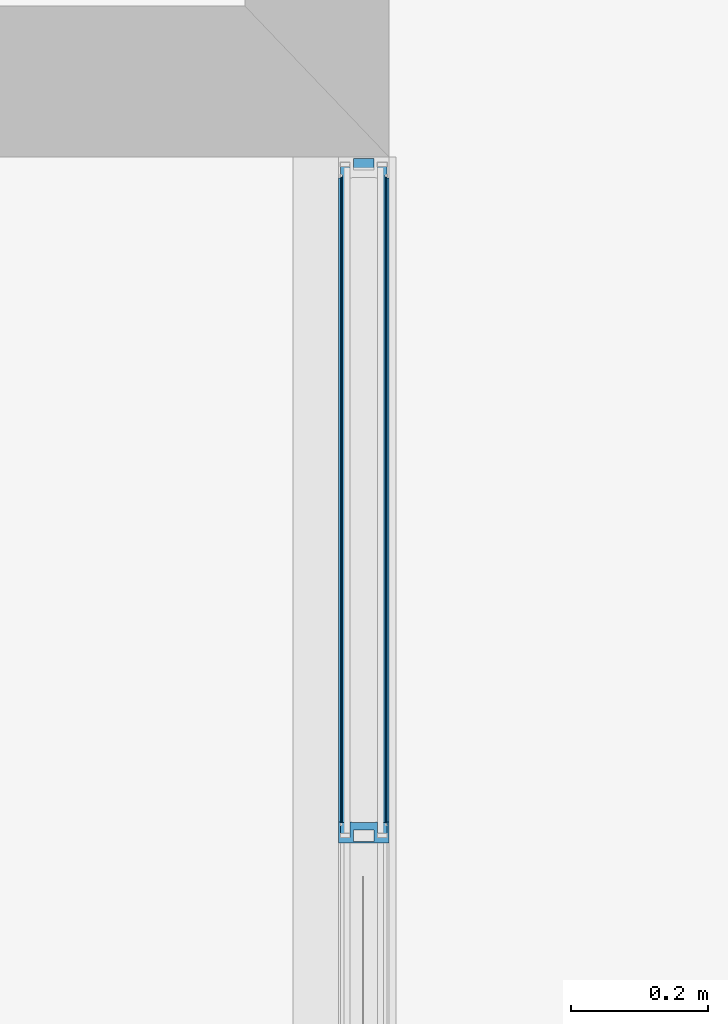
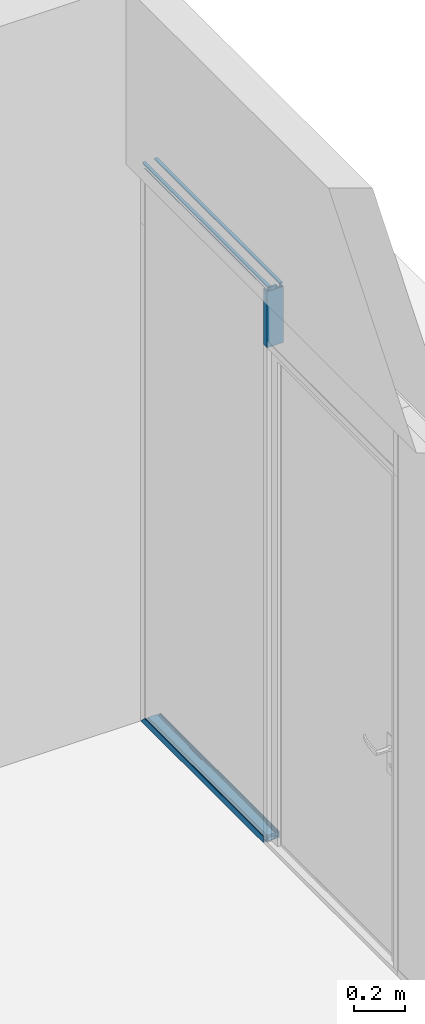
# One storey, part 48 of 65: 4 building element parts, 4 elements without a shape of their own.
"""IFC2X3 building model written with IfcOpenShell, lengths in millimetres."""

from ifc_helpers import new_model, entity, si_unit, converted_unit, derived_unit, money_unit, direction, frame, origin_with_axes, place, context, subcontext, project, spatial, faceted_brep, material, type_object, element, aggregate, save


model = new_model("IFC2X3")

# Units and contexts
model_context = context("Model", 3, precision=0.01, world=origin_with_axes(), true_north=direction((0.0, 1.0)))
body_context = subcontext(model_context, "Body", "Model", "MODEL_VIEW")
ifc_project = project(units=[si_unit("LENGTHUNIT", "METRE", prefix="MILLI"), si_unit("AREAUNIT", "SQUARE_METRE"), si_unit("VOLUMEUNIT", "CUBIC_METRE"), converted_unit("PLANEANGLEUNIT", "DEGREE", entity("IfcPlaneAngleMeasure", 0.0174532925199), si_unit("PLANEANGLEUNIT", "RADIAN"), dimensions=[0, 0, 0, 0, 0, 0, 0]), si_unit("SOLIDANGLEUNIT", "STERADIAN"), money_unit("EUR"), converted_unit("TIMEUNIT", "Year", entity("IfcTimeMeasure", 31556926.0), si_unit("TIMEUNIT", "SECOND"), dimensions=[0, 0, 1, 0, 0, 0, 0]), si_unit("MASSUNIT", "GRAM", prefix="KILO"), si_unit("THERMODYNAMICTEMPERATUREUNIT", "DEGREE_CELSIUS"), si_unit("LUMINOUSINTENSITYUNIT", "LUMEN"), si_unit("ENERGYUNIT", "JOULE", prefix="MEGA"), derived_unit("THERMALCONDUCTANCEUNIT", [(si_unit("POWERUNIT", "WATT"), 1), (si_unit("LENGTHUNIT", "METRE"), -1), (si_unit("THERMODYNAMICTEMPERATUREUNIT", "KELVIN"), -1)]), derived_unit("SPECIFICHEATCAPACITYUNIT", [(si_unit("ENERGYUNIT", "JOULE"), 1), (si_unit("MASSUNIT", "GRAM", prefix="KILO"), -1), (si_unit("THERMODYNAMICTEMPERATUREUNIT", "KELVIN"), -1)]), derived_unit("MASSDENSITYUNIT", [(si_unit("MASSUNIT", "GRAM", prefix="KILO"), 1), (si_unit("VOLUMEUNIT", "CUBIC_METRE"), -1)])], contexts=[model_context])

# Site, building, storey
site_placement = place(None, origin_with_axes())
site = spatial("IfcSite", under=ifc_project, at=site_placement, Name="Puškini 31, Narva", CompositionType="ELEMENT")
building_placement = place(site_placement, origin_with_axes())
building = spatial("IfcBuilding", under=site, at=building_placement, Name="Narva Riigigümnaasium", CompositionType="ELEMENT")
storey_placement = place(building_placement, frame((0.0, 0.0, -1320.0), z_axis=(0.0, 0.0, 1.0), x_axis=(1.0, 0.0, 0.0)))
storey = spatial("IfcBuildingStorey", under=building, at=storey_placement, Name="1.korrus -1.32", CompositionType="ELEMENT", Elevation=-1320.0)

# Curtain wall, members, building element parts
curtain_wall_type = type_object("IfcCurtainWallType", Name="Curtain Wall Type", PredefinedType="NOTDEFINED")
curtain_wall_placement = place(storey_placement, frame((30362.9999948, 171898.750025, 0.0), z_axis=(0.0, 0.0, 1.0), x_axis=(1.0, 0.0, 0.0)))
curtain_wall = element("IfcCurtainWall", 1, at=curtain_wall_placement, inside=storey, type_object=curtain_wall_type, Name="G-SKLF-06")
member_type_1 = type_object("IfcMemberType", Name="30 x 27", PredefinedType="MULLION")
member_1_placement = place(curtain_wall_placement, frame((0.0, 2493.75, 2400.0), z_axis=(0.0, 0.0, 1.0), x_axis=(0.0, -1.0, 0.0)))
member_1 = element("IfcMember", 2, at=member_1_placement, type_object=member_type_1, Name="G-SKLF-06-raam", ObjectType="MULLION")
ifc_material_1 = material(Name="Teras RAL7012")
building_element_part_1_placement = place(member_1_placement, origin_with_axes())
building_element_part_1 = element("IfcBuildingElementPart", 3, at=building_element_part_1_placement, material=ifc_material_1, Name="Teras RAL7012", context=body_context, shape_type="Brep", body=[
    faceted_brep([(-29.6000001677, 17.0000000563, 0.0), (-29.6000001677, -17.0000000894, 0.0), (-29.6000001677, -17.0000000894, 269.999980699), (-29.6000001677, 17.0000000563, 269.999980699), (3.28335792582e-07, 17.0000000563, 0.0), (3.28335792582e-07, -17.0000000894, 0.0), (-1.99999958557, -15.0000001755, 0.0), (-1.99999958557, 15.0000001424, 0.0), (-18.8000001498, 15.0000001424, 0.0), (-18.8000001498, -15.0000001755, 0.0), (3.28335792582e-07, -17.0000000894, 269.999980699), (3.28335792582e-07, 17.0000000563, 269.999980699), (-1.99999958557, -15.0000001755, 269.999980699), (-18.8000001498, -15.0000001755, 269.999980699), (-18.8000001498, 15.0000001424, 269.999980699), (-1.99999958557, 15.0000001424, 269.999980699)], [[[0, 1, 2, 3]], [[0, 4, 5, 1], [6, 7, 8, 9]], [[1, 5, 10, 2]], [[3, 2, 10, 11], [12, 13, 14, 15]], [[4, 0, 3, 11]], [[5, 4, 11, 10]], [[7, 6, 12, 15]], [[8, 7, 15, 14]], [[9, 8, 14, 13]], [[6, 9, 13, 12]]]),
    faceted_brep([(0.0, 17.0, 0.0), (0.0, 37.0, 0.0), (0.0, 37.0, 269.999980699), (0.0, 17.0, 269.999980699), (-29.6000001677, 17.0000000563, 0.0), (-30.0000193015, 17.0, 0.0), (-30.0000193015, 20.0, 0.0), (-13.8499999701, 20.000000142, 0.0), (-7.49999999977, 20.0, 0.0), (-7.49999999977, 34.0161444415, 0.0), (-13.8499999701, 34.0161444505, 0.0), (-24.987414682, 34.0161444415, 0.0), (-28.5126239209, 34.0161444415, 0.0), (-30.0000193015, 34.0161444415, 0.0), (-30.0000193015, 37.0, 0.0), (-30.0000193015, 37.0, 269.999980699), (-30.0000193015, 34.0161444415, 269.999980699), (-28.5126239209, 34.0161444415, 269.999980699), (-24.987414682, 34.0161444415, 269.999980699), (-13.8499999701, 34.0161444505, 269.999980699), (-7.49999999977, 34.0161444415, 269.999980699), (-7.49999999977, 20.0, 269.999980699), (-13.8499999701, 20.000000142, 269.999980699), (-30.0000193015, 20.0, 269.999980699), (-30.0000193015, 17.0, 269.999980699), (-29.6000001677, 17.0000000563, 269.999980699)], [[[0, 1, 2, 3]], [[0, 4, 5, 6, 7, 8, 9, 10, 11, 12, 13, 14, 1]], [[1, 14, 15, 2]], [[3, 2, 15, 16, 17, 18, 19, 20, 21, 22, 23, 24, 25]], [[4, 0, 3, 25]], [[5, 4, 25, 24]], [[6, 5, 24, 23]], [[7, 6, 23, 22]], [[8, 7, 22, 21]], [[9, 8, 21, 20]], [[10, 9, 20, 19]], [[11, 10, 19, 18]], [[12, 11, 18, 17]], [[13, 12, 17, 16]], [[14, 13, 16, 15]]]),
    faceted_brep([(0.0, -17.0, 0.0), (-29.6000001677, -17.0000000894, 0.0), (-29.6000001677, -17.0000000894, 269.999980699), (0.0, -17.0, 269.999980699), (0.0, -37.0, 0.0), (-30.0000193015, -37.0, 0.0), (-30.0000193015, -34.0161444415, 0.0), (-28.5126239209, -34.0161444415, 0.0), (-24.987414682, -34.0161444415, 0.0), (-13.8499999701, -34.0161445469, 0.0), (-7.49999999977, -34.0161444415, 0.0), (-7.49999999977, -20.0, 0.0), (-13.8499999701, -19.9999997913, 0.0), (-30.0000193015, -20.0, 0.0), (-30.0000193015, -17.0, 0.0), (-30.0000193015, -17.0, 269.999980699), (-30.0000193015, -20.0, 269.999980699), (-13.8499999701, -19.9999997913, 269.999980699), (-7.49999999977, -20.0, 269.999980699), (-7.49999999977, -34.0161444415, 269.999980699), (-13.8499999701, -34.0161445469, 269.999980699), (-24.987414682, -34.0161444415, 269.999980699), (-28.5126239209, -34.0161444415, 269.999980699), (-30.0000193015, -34.0161444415, 269.999980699), (-30.0000193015, -37.0, 269.999980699), (0.0, -37.0, 269.999980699)], [[[0, 1, 2, 3]], [[0, 4, 5, 6, 7, 8, 9, 10, 11, 12, 13, 14, 1]], [[1, 14, 15, 2]], [[3, 2, 15, 16, 17, 18, 19, 20, 21, 22, 23, 24, 25]], [[4, 0, 3, 25]], [[5, 4, 25, 24]], [[6, 5, 24, 23]], [[7, 6, 23, 22]], [[8, 7, 22, 21]], [[9, 8, 21, 20]], [[10, 9, 20, 19]], [[11, 10, 19, 18]], [[12, 11, 18, 17]], [[13, 12, 17, 16]], [[14, 13, 16, 15]]]),
])
aggregate(member_1, [building_element_part_1])
member_type_2 = type_object("IfcMemberType", Name="30 x 37", PredefinedType="MULLION")
member_2_placement = place(curtain_wall_placement, frame((0.0, 2493.75, 2700.0), z_axis=(0.0, 1.0, 0.0), x_axis=(0.0, 0.0, 1.0)))
member_2 = element("IfcMember", 4, at=member_2_placement, type_object=member_type_2, Name="G-SKLF-06-raam", ObjectType="MULLION")
ifc_material_2 = material(Name="Klaasvill")
building_element_part_2_placement = place(member_2_placement, origin_with_axes())
building_element_part_2 = element("IfcBuildingElementPart", 5, at=building_element_part_2_placement, material=ifc_material_2, Name="Klaasvill", context=body_context, shape_type="Brep", body=[
    faceted_brep([(-7.49999990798, 20.000000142, 0.0), (-7.49999990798, 20.000000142, 990.000090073), (-13.8499999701, 20.000000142, 983.65009001), (-13.8499999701, 20.000000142, 0.0), (-7.49999990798, 34.0161444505, 0.0), (-7.49999990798, 34.0161444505, 990.000090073), (-13.8499999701, 34.0161444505, 983.65009001), (-13.8499999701, 34.0161444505, 0.0)], [[[0, 1, 2, 3]], [[4, 5, 1, 0]], [[1, 5, 6, 2]], [[3, 2, 6, 7]], [[0, 3, 7, 4]], [[7, 6, 5, 4]]]),
    faceted_brep([(-24.987414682, 34.0161444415, 0.0), (-24.987414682, 34.0161444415, 972.512675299), (-25.004489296, 32.0307503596, 972.495600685), (-25.004489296, 32.0307503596, 0.0), (-28.5126239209, 34.0161444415, 0.0), (-28.5126239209, 34.0161444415, 968.98746606), (-28.7655837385, 33.0385325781, 968.734506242), (-28.4955493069, 32.0307503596, 969.004540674), (-27.75780152, 31.2930025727, 969.742288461), (-26.7500193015, 31.0229681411, 970.750070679), (-25.742237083, 31.2930025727, 971.757852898), (-25.742237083, 31.2930025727, 0.0), (-26.7500193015, 31.0229681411, 0.0), (-27.75780152, 31.2930025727, 0.0), (-28.4955493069, 32.0307503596, 0.0), (-28.7655837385, 33.0385325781, 0.0)], [[[0, 1, 2, 3]], [[4, 5, 1, 0]], [[1, 5, 6, 7, 8, 9, 10, 2]], [[3, 2, 10, 11]], [[0, 3, 11, 12, 13, 14, 15, 4]], [[15, 6, 5, 4]], [[14, 7, 6, 15]], [[13, 8, 7, 14]], [[12, 9, 8, 13]], [[11, 10, 9, 12]]]),
    faceted_brep([(-7.49999990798, -19.9999997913, 0.0), (-7.49999990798, -19.9999997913, 990.000090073), (-7.49999990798, -34.0161445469, 990.000090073), (-7.49999990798, -34.0161445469, 0.0), (-13.8499999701, -19.9999997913, 0.0), (-13.8499999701, -19.9999997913, 983.65009001), (-13.8499999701, -34.0161445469, 983.65009001), (-13.8499999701, -34.0161445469, 0.0)], [[[0, 1, 2, 3]], [[4, 5, 1, 0]], [[1, 5, 6, 2]], [[3, 2, 6, 7]], [[0, 3, 7, 4]], [[7, 6, 5, 4]]]),
    faceted_brep([(-25.004489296, -32.0307503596, 0.0), (-25.004489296, -32.0307503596, 972.495600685), (-24.987414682, -34.0161444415, 972.512675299), (-24.987414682, -34.0161444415, 0.0), (-25.742237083, -31.2930025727, 0.0), (-25.742237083, -31.2930025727, 971.757852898), (-26.7500193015, -31.0229681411, 970.750070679), (-27.75780152, -31.2930025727, 969.742288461), (-28.4955493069, -32.0307503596, 969.004540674), (-28.7655837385, -33.0385325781, 968.734506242), (-28.5126239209, -34.0161444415, 968.98746606), (-28.5126239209, -34.0161444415, 0.0), (-28.7655837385, -33.0385325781, 0.0), (-28.4955493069, -32.0307503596, 0.0), (-27.75780152, -31.2930025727, 0.0), (-26.7500193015, -31.0229681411, 0.0)], [[[0, 1, 2, 3]], [[4, 5, 1, 0]], [[1, 5, 6, 7, 8, 9, 10, 2]], [[3, 2, 10, 11]], [[0, 3, 11, 12, 13, 14, 15, 4]], [[15, 6, 5, 4]], [[14, 7, 6, 15]], [[13, 8, 7, 14]], [[12, 9, 8, 13]], [[11, 10, 9, 12]]]),
])
aggregate(member_2, [building_element_part_2])
member_3_placement = place(curtain_wall_placement, frame((0.0, 2523.25008998, 0.0), z_axis=(0.0, 1.0, 0.0), x_axis=(0.0, 0.0, 1.0)))
member_3 = element("IfcMember", 6, at=member_3_placement, type_object=member_type_2, Name="G-SKLF-06-raam", ObjectType="MULLION")
aggregate(curtain_wall, [member_1, member_2, member_3])
building_element_part_3_placement = place(member_3_placement, origin_with_axes())
building_element_part_3 = element("IfcBuildingElementPart", 7, at=building_element_part_3_placement, material=ifc_material_2, Name="Klaasvill", context=body_context, shape_type="Brep", body=[
    faceted_brep([(7.49999990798, 20.000000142, 0.0), (13.8499999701, 20.000000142, 0.0), (13.8499999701, 20.000000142, 954.15000003), (7.49999990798, 20.000000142, 960.500000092), (7.49999990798, 34.0161444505, 0.0), (13.8499999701, 34.0161444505, 0.0), (13.8499999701, 34.0161444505, 954.15000003), (7.49999990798, 34.0161444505, 960.500000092)], [[[0, 1, 2, 3]], [[0, 4, 5, 1]], [[1, 5, 6, 2]], [[3, 2, 6, 7]], [[4, 0, 3, 7]], [[5, 4, 7, 6]]]),
    faceted_brep([(24.987414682, 34.0161444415, 0.0), (25.004489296, 32.0307503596, 0.0), (25.004489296, 32.0307503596, 942.995510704), (24.987414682, 34.0161444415, 943.012585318), (28.5126239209, 34.0161444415, 0.0), (28.7655837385, 33.0385325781, 0.0), (28.4955493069, 32.0307503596, 0.0), (27.75780152, 31.2930025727, 0.0), (26.7500193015, 31.0229681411, 0.0), (25.742237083, 31.2930025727, 0.0), (25.742237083, 31.2930025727, 942.257762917), (26.7500193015, 31.0229681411, 941.249980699), (27.75780152, 31.2930025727, 940.24219848), (28.4955493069, 32.0307503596, 939.504450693), (28.7655837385, 33.0385325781, 939.234416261), (28.5126239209, 34.0161444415, 939.487376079)], [[[0, 1, 2, 3]], [[0, 4, 5, 6, 7, 8, 9, 1]], [[1, 9, 10, 2]], [[3, 2, 10, 11, 12, 13, 14, 15]], [[4, 0, 3, 15]], [[5, 4, 15, 14]], [[6, 5, 14, 13]], [[7, 6, 13, 12]], [[8, 7, 12, 11]], [[9, 8, 11, 10]]]),
    faceted_brep([(7.49999990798, -19.9999997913, 0.0), (7.49999990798, -34.0161445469, 0.0), (7.49999990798, -34.0161445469, 960.500000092), (7.49999990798, -19.9999997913, 960.500000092), (13.8499999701, -19.9999997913, 0.0), (13.8499999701, -34.0161445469, 0.0), (13.8499999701, -34.0161445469, 954.15000003), (13.8499999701, -19.9999997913, 954.15000003)], [[[0, 1, 2, 3]], [[0, 4, 5, 1]], [[1, 5, 6, 2]], [[3, 2, 6, 7]], [[4, 0, 3, 7]], [[5, 4, 7, 6]]]),
    faceted_brep([(25.004489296, -32.0307503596, 0.0), (24.987414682, -34.0161444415, 0.0), (24.987414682, -34.0161444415, 943.012585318), (25.004489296, -32.0307503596, 942.995510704), (25.742237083, -31.2930025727, 0.0), (26.7500193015, -31.0229681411, 0.0), (27.75780152, -31.2930025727, 0.0), (28.4955493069, -32.0307503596, 0.0), (28.7655837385, -33.0385325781, 0.0), (28.5126239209, -34.0161444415, 0.0), (28.5126239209, -34.0161444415, 939.487376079), (28.7655837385, -33.0385325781, 939.234416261), (28.4955493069, -32.0307503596, 939.504450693), (27.75780152, -31.2930025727, 940.24219848), (26.7500193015, -31.0229681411, 941.249980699), (25.742237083, -31.2930025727, 942.257762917)], [[[0, 1, 2, 3]], [[0, 4, 5, 6, 7, 8, 9, 1]], [[1, 9, 10, 2]], [[3, 2, 10, 11, 12, 13, 14, 15]], [[4, 0, 3, 15]], [[5, 4, 15, 14]], [[6, 5, 14, 13]], [[7, 6, 13, 12]], [[8, 7, 12, 11]], [[9, 8, 11, 10]]]),
])
building_element_part_4_placement = place(member_3_placement, origin_with_axes())
building_element_part_4 = element("IfcBuildingElementPart", 8, at=building_element_part_4_placement, material=ifc_material_1, Name="Teras RAL7012", context=body_context, shape_type="Brep", body=[
    faceted_brep([(0.0, -17.0000000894, 0.0), (29.5999996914, -17.0000000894, 0.0), (29.5999996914, -17.0000000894, 938.400000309), (0.0, -17.0000000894, 968.0), (0.0, 17.0000000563, 0.0), (29.5999996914, 17.0000000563, 0.0), (1.9999999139, 15.0000001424, 0.0), (1.9999999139, -15.0000001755, 0.0), (18.7999996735, -15.0000001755, 0.0), (18.7999996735, 15.0000001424, 0.0), (29.5999996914, 17.0000000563, 938.400000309), (0.0, 17.0000000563, 968.0), (1.9999999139, 15.0000001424, 966.000000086), (18.7999996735, 15.0000001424, 949.200000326), (18.7999996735, -15.0000001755, 949.200000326), (1.9999999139, -15.0000001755, 966.000000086)], [[[0, 1, 2, 3]], [[0, 4, 5, 1], [6, 7, 8, 9]], [[1, 5, 10, 2]], [[3, 2, 10, 11], [12, 13, 14, 15]], [[4, 0, 3, 11]], [[5, 4, 11, 10]], [[7, 6, 12, 15]], [[8, 7, 15, 14]], [[9, 8, 14, 13]], [[6, 9, 13, 12]]]),
    faceted_brep([(0.0, 17.0, 0.0), (29.5999996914, 17.0000000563, 0.0), (29.5999996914, 17.0000000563, 938.400000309), (0.0, 17.0, 968.0), (0.0, 37.0, 0.0), (30.0000193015, 37.0, 0.0), (30.0000193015, 34.0161444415, 0.0), (28.5126239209, 34.0161444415, 0.0), (24.987414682, 34.0161444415, 0.0), (13.8499999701, 34.0161444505, 0.0), (7.49999999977, 34.0161444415, 0.0), (7.49999999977, 20.0, 0.0), (13.8499999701, 20.000000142, 0.0), (30.0000193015, 20.0, 0.0), (30.0000193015, 17.0, 0.0), (30.0000193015, 17.0, 937.999980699), (30.0000193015, 20.0, 937.999980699), (13.8499999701, 20.000000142, 954.15000003), (7.49999999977, 20.0, 960.5), (7.49999999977, 34.0161444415, 960.5), (13.8499999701, 34.0161444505, 954.15000003), (24.987414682, 34.0161444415, 943.012585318), (28.5126239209, 34.0161444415, 939.487376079), (30.0000193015, 34.0161444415, 937.999980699), (30.0000193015, 37.0, 937.999980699), (0.0, 37.0, 968.0)], [[[0, 1, 2, 3]], [[0, 4, 5, 6, 7, 8, 9, 10, 11, 12, 13, 14, 1]], [[1, 14, 15, 2]], [[3, 2, 15, 16, 17, 18, 19, 20, 21, 22, 23, 24, 25]], [[4, 0, 3, 25]], [[5, 4, 25, 24]], [[6, 5, 24, 23]], [[7, 6, 23, 22]], [[8, 7, 22, 21]], [[9, 8, 21, 20]], [[10, 9, 20, 19]], [[11, 10, 19, 18]], [[12, 11, 18, 17]], [[13, 12, 17, 16]], [[14, 13, 16, 15]]]),
    faceted_brep([(0.0, -17.0, 0.0), (0.0, -37.0, 0.0), (0.0, -37.0, 968.0), (0.0, -17.0, 968.0), (29.5999996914, -17.0000000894, 0.0), (30.0000193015, -17.0, 0.0), (30.0000193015, -20.0, 0.0), (13.8499999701, -19.9999997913, 0.0), (7.49999999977, -20.0, 0.0), (7.49999999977, -34.0161444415, 0.0), (13.8499999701, -34.0161445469, 0.0), (24.987414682, -34.0161444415, 0.0), (28.5126239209, -34.0161444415, 0.0), (30.0000193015, -34.0161444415, 0.0), (30.0000193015, -37.0, 0.0), (30.0000193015, -37.0, 937.999980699), (30.0000193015, -34.0161444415, 937.999980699), (28.5126239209, -34.0161444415, 939.487376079), (24.987414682, -34.0161444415, 943.012585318), (13.8499999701, -34.0161445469, 954.15000003), (7.49999999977, -34.0161444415, 960.5), (7.49999999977, -20.0, 960.5), (13.8499999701, -19.9999997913, 954.15000003), (30.0000193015, -20.0, 937.999980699), (30.0000193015, -17.0, 937.999980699), (29.5999996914, -17.0000000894, 938.400000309)], [[[0, 1, 2, 3]], [[0, 4, 5, 6, 7, 8, 9, 10, 11, 12, 13, 14, 1]], [[1, 14, 15, 2]], [[3, 2, 15, 16, 17, 18, 19, 20, 21, 22, 23, 24, 25]], [[4, 0, 3, 25]], [[5, 4, 25, 24]], [[6, 5, 24, 23]], [[7, 6, 23, 22]], [[8, 7, 22, 21]], [[9, 8, 21, 20]], [[10, 9, 20, 19]], [[11, 10, 19, 18]], [[12, 11, 18, 17]], [[13, 12, 17, 16]], [[14, 13, 16, 15]]]),
])
aggregate(member_3, [building_element_part_3, building_element_part_4])

save(model, "model.ifc")
